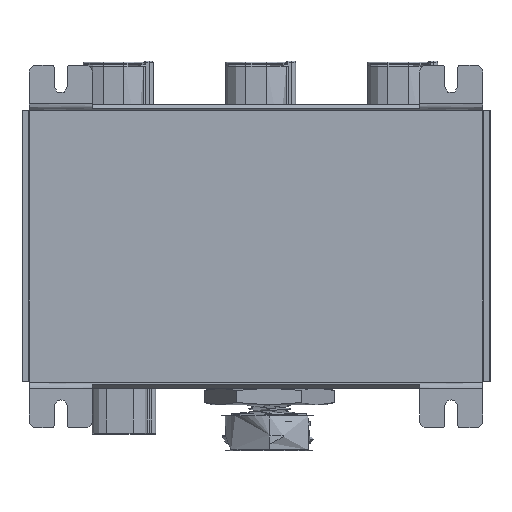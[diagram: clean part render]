
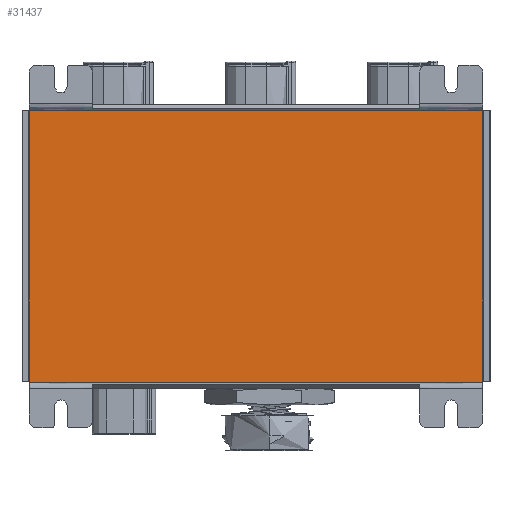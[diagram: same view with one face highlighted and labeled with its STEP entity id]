
A CAD part, front view. The second image highlights one B-rep face of the part: STEP entity #31437.
In plain terms, the highlighted planar face has unit normal (0, -1, 0) as drawn and (0, 0, 1) by its records, which use the part's own axes.
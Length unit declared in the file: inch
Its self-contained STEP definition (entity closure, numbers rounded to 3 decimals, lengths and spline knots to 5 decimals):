
#5602 = VECTOR ( 'NONE', #156038, 39.37008 ) ;
#9911 = DIRECTION ( 'NONE',  ( -1., 0., 0. ) ) ;
#11920 = FACE_OUTER_BOUND ( 'NONE', #14003, .T. ) ;
#14003 = EDGE_LOOP ( 'NONE', ( #37089, #176422, #200910, #20186 ) ) ;
#17745 = CARTESIAN_POINT ( 'NONE',  ( 3.395, -2.03256, 1.74409 ) ) ;
#20186 = ORIENTED_EDGE ( 'NONE', *, *, #36123, .T. ) ;
#20620 = CARTESIAN_POINT ( 'NONE',  ( -3.395, 2.03256, 1.74409 ) ) ;
#22985 = LINE ( 'NONE', #229751, #114901 ) ;
#26847 = CARTESIAN_POINT ( 'NONE',  ( 0., 0., 1.74409 ) ) ;
#27265 = CARTESIAN_POINT ( 'NONE',  ( -3.395, -2.03256, 1.74409 ) ) ;
#27655 = EDGE_CURVE ( 'NONE', #68583, #59702, #221802, .T. ) ;
#28799 = CARTESIAN_POINT ( 'NONE',  ( 3.395, 2.03256, 1.74409 ) ) ;
#31437 = ADVANCED_FACE ( 'NONE', ( #11920 ), #136688, .T. ) ;
#36123 = EDGE_CURVE ( 'NONE', #111502, #68583, #54439, .T. ) ;
#36998 = DIRECTION ( 'NONE',  ( 0., 1., 0. ) ) ;
#37089 = ORIENTED_EDGE ( 'NONE', *, *, #27655, .T. ) ;
#47820 = VERTEX_POINT ( 'NONE', #20620 ) ;
#54439 = LINE ( 'NONE', #229073, #5602 ) ;
#59702 = VERTEX_POINT ( 'NONE', #28799 ) ;
#61385 = AXIS2_PLACEMENT_3D ( 'NONE', #26847, #174452, #64594 ) ;
#62362 = VECTOR ( 'NONE', #174087, 39.37008 ) ;
#64594 = DIRECTION ( 'NONE',  ( 1., 0., 0. ) ) ;
#68583 = VERTEX_POINT ( 'NONE', #152732 ) ;
#111502 = VERTEX_POINT ( 'NONE', #160961 ) ;
#114901 = VECTOR ( 'NONE', #9911, 39.37008 ) ;
#116931 = LINE ( 'NONE', #27265, #62362 ) ;
#120042 = EDGE_CURVE ( 'NONE', #59702, #47820, #22985, .T. ) ;
#124195 = VECTOR ( 'NONE', #36998, 39.37008 ) ;
#127128 = EDGE_CURVE ( 'NONE', #47820, #111502, #116931, .T. ) ;
#136688 = PLANE ( 'NONE',  #61385 ) ;
#152732 = CARTESIAN_POINT ( 'NONE',  ( 3.395, -2.03256, 1.74409 ) ) ;
#156038 = DIRECTION ( 'NONE',  ( 1., 0., 0. ) ) ;
#160961 = CARTESIAN_POINT ( 'NONE',  ( -3.395, -2.03256, 1.74409 ) ) ;
#174087 = DIRECTION ( 'NONE',  ( 0., -1., 0. ) ) ;
#174452 = DIRECTION ( 'NONE',  ( 0., 0., 1. ) ) ;
#176422 = ORIENTED_EDGE ( 'NONE', *, *, #120042, .T. ) ;
#200910 = ORIENTED_EDGE ( 'NONE', *, *, #127128, .T. ) ;
#221802 = LINE ( 'NONE', #17745, #124195 ) ;
#229073 = CARTESIAN_POINT ( 'NONE',  ( 3.395, -2.03256, 1.74409 ) ) ;
#229751 = CARTESIAN_POINT ( 'NONE',  ( 3.395, 2.03256, 1.74409 ) ) ;
